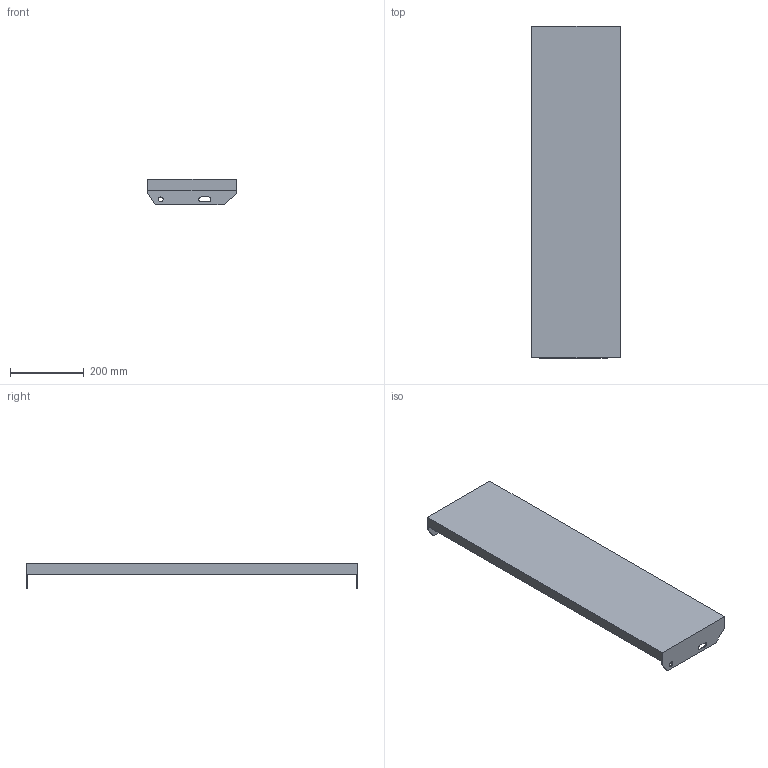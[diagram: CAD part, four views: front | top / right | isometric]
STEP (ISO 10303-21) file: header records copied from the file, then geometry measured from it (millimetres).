
FILE_DESCRIPTION(/* description */ (''),/* implementation_level */ '2;1');
FILE_NAME(/* name */ 'Pos102-Persrooster 30x3-33x33-S235JRG2-16st',/* time_stamp */ '2024-08-06T11:42:42+02:00',/* author */ (''),/* organization */ (''),/* preprocessor_version */ 'ST-DEVELOPER v16.5',/* originating_system */ 'HiCAD 2024 2901.2 Build 361',/* authorisation */ '');
FILE_SCHEMA (('AUTOMOTIVE_DESIGN { 1 0 10303 214 1 1 1 1 }'));
Length unit declared in the file: millimetre
Products named in the file (1): Pos102-Persrooster 30x3-33x33-S235JRG2-16st
Bounding box: 240 x 900 x 70 mm (x, y, z)
Volume: 6529429.5 mm3; surface area: 534364.9 mm2
Topology: 1 solids, 1 shells, 24 faces, 69 edges, 50 vertices
Faces by surface type: plane 18, cylinder 6
Full cylindrical faces by diameter (mm): 13 x2
Entity records: 1472 total; most frequent: CARTESIAN_POINT 141, PRESENTATION_STYLE_ASSIGNMENT 132, COLOUR_RGB 132, DRAUGHTING_PRE_DEFINED_CURVE_FONT 128, CURVE_STYLE 128, OVER_RIDING_STYLED_ITEM 128, ORIENTED_EDGE 128, DIRECTION 127
